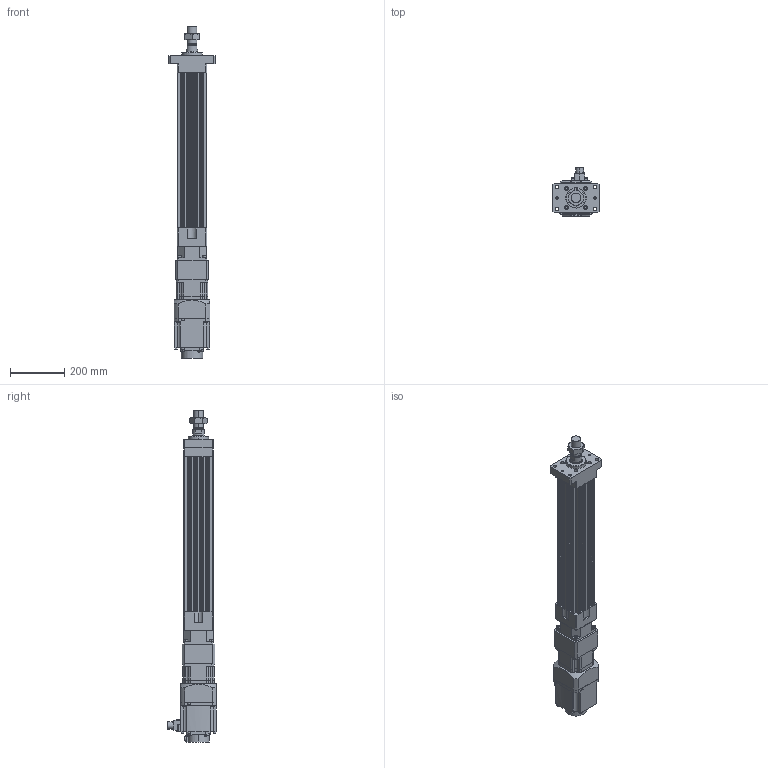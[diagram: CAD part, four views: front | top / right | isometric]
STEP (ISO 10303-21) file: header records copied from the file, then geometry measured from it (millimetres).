
FILE_DESCRIPTION (( 'STEP AP203' ), '1' );
FILE_NAME ('HES110NS(HS)-S400-W015G00-M-FM.STEP', '2023-01-28T06:13:00', ( 'tms' ), ( '' ), 'SwSTEP 2.0', 'SolidWorks 2013', '' );
FILE_SCHEMA (( 'CONFIG_CONTROL_DESIGN' ));
Length unit declared in the file: millimetre
Products named in the file (8): HG-SR152; HES110 ROD M ST400; HES110NS(HS)-S400-W015G00-M-FM; AB115-003[HG-SR152]; HES110-S400-G120-FM; M36X1.5P; P0401400706; AB1151
Assembly tree (7 placements, depth 3):
  HES110NS(HS)-S400-W015G00-M-FM
    HES110-S400-G120-FM
    HES110 ROD M ST400
    M36X1.5P
    AB115-003[HG-SR152]
      AB1151
      P0401400706
    HG-SR152
Bounding box: 170 x 177.49 x 1221.5 mm (x, y, z)
Volume: 7961317 mm3; surface area: 1098247.6 mm2
Topology: 4 solids, 15 shells, 1170 faces, 2958 edges, 1925 vertices
Faces by surface type: plane 559, cylinder 525, cone 74, bspline 8, torus 4
Entity records: 36974 total; most frequent: CARTESIAN_POINT 7028, DIRECTION 6389, ORIENTED_EDGE 5864, EDGE_CURVE 2942, AXIS2_PLACEMENT_3D 2346, VERTEX_POINT 1925, VECTOR 1697, LINE 1697
